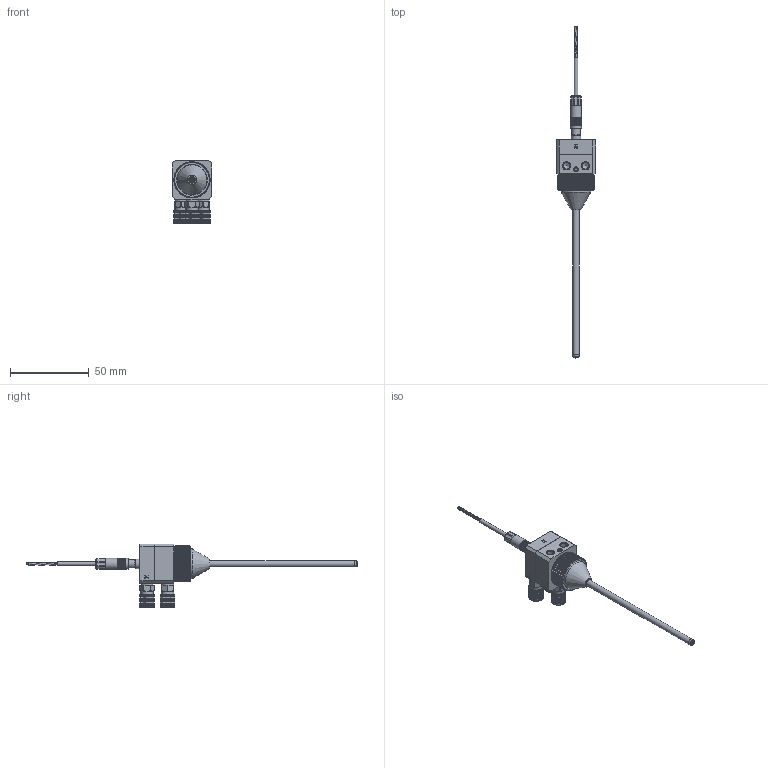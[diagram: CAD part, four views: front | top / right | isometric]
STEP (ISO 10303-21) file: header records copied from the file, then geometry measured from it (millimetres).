
FILE_DESCRIPTION (( 'STEP AP214' ), '1' );
FILE_NAME ('DAS-30-100F-4-SENSOR.STEP', '2024-10-11T09:56:14', ( '' ), ( '' ), 'SwSTEP 2.0', 'SolidWorks 2024', '' );
FILE_SCHEMA (( 'AUTOMOTIVE_DESIGN' ));
Length unit declared in the file: millimetre
Products named in the file (1): DAS-30-100F-4-SENSOR
Bounding box: 25 x 211.2 x 40.5 mm (x, y, z)
Volume: 22955.8 mm3; surface area: 12592 mm2
Topology: 2 solids, 4 shells, 1695 faces, 4539 edges, 2918 vertices
Faces by surface type: plane 1001, cylinder 437, cone 241, bspline 16
Full cylindrical faces by diameter (mm): 0.5 x1, 1 x4, 1.1 x2, 1.5 x4, 2 x3, 2.5 x2, 3 x3, 4 x6, 4.198 x2, 4.2 x2, 5.2 x2, 5.4 x1, 5.5 x4, 5.7 x3, 6 x1, 6.2 x3, 7 x2, 7.998 x3, 8 x8, 8.001 x1, 8.7 x3, 12 x1, 18.8 x1, 19 x1, 19.2 x1, 19.8 x1, 20.2 x1, 21 x2, 21.2 x1
Entity records: 57170 total; most frequent: CARTESIAN_POINT 16538, ORIENTED_EDGE 8672, DIRECTION 8028, EDGE_CURVE 4336, VERTEX_POINT 2850, AXIS2_PLACEMENT_3D 2826, VECTOR 2376, LINE 2376
